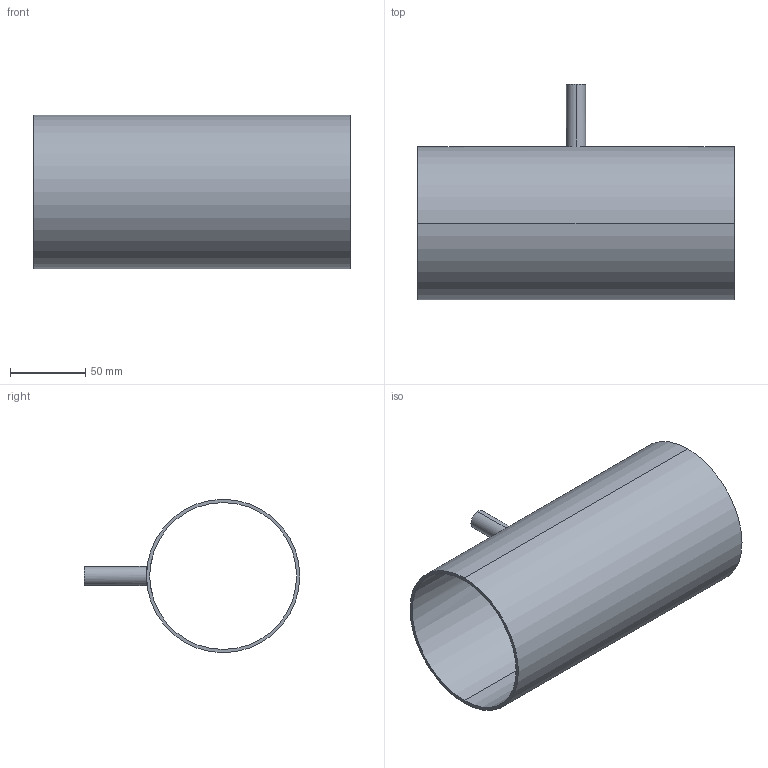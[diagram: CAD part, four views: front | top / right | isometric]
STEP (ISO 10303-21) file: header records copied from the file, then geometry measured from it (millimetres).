
FILE_DESCRIPTION (( 'STEP AP214' ), '1' );
FILE_NAME ('TE7RWWW6L4.0x.5-...STEP', '2016-05-24T04:28:37', ( 'eran' ), ( '' ), 'SwSTEP 2.0', 'SolidWorks 2016', '' );
FILE_SCHEMA (( 'AUTOMOTIVE_DESIGN' ));
Length unit declared in the file: millimetre
Products named in the file (1): TE7RWWW6L4.0x.5-..
Bounding box: 209.6 x 142.9 x 101.6 mm (x, y, z)
Volume: 140458.1 mm3; surface area: 135144.8 mm2
Topology: 1 solids, 1 shells, 11 faces, 24 edges, 16 vertices
Faces by surface type: cylinder 8, plane 3
Entity records: 494 total; most frequent: CARTESIAN_POINT 202, DIRECTION 56, ORIENTED_EDGE 48, AXIS2_PLACEMENT_3D 24, EDGE_CURVE 24, VERTEX_POINT 16, EDGE_LOOP 16, CIRCLE 12
